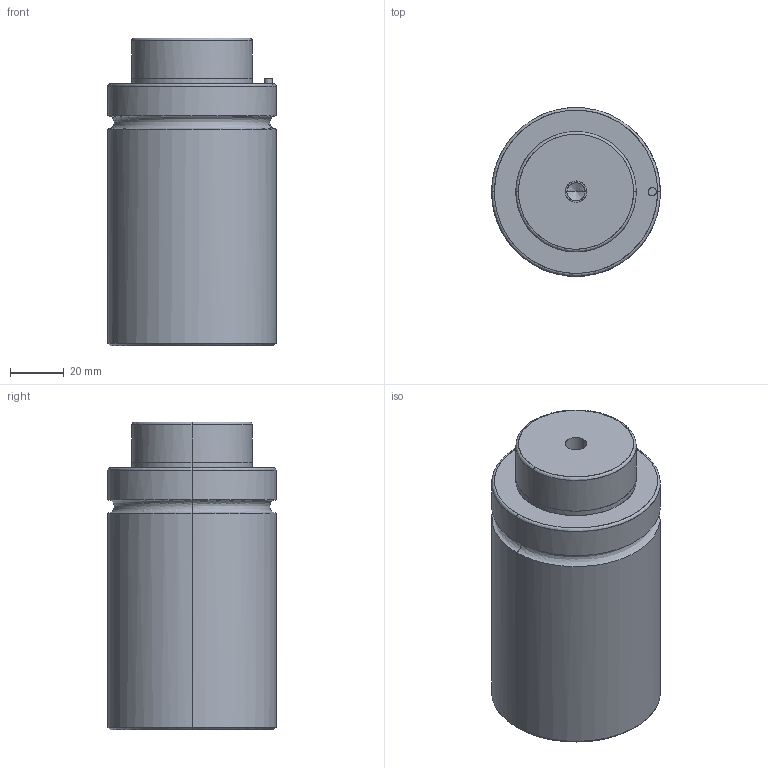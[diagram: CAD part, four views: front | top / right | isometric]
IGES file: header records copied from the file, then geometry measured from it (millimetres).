
Global section: file name: E:\UnigraphicsGraphicData\MISUMI_PRESS-PARTS\IGES\3d_gsm63-15_03901_r00.igs; native system: NX V5.0; preprocessor: UGS NX IGES V5.0; author: MISUMI; date: 20110105.160817; units: millimetre
Bounding box: 63 x 62.82 x 115 mm (x, y, z)
Surface area: 29720.3 mm2 (no closed solid volume)
Topology: 0 solids, 0 shells, 50 faces, 344 edges, 336 vertices
Faces by surface type: bspline 50
